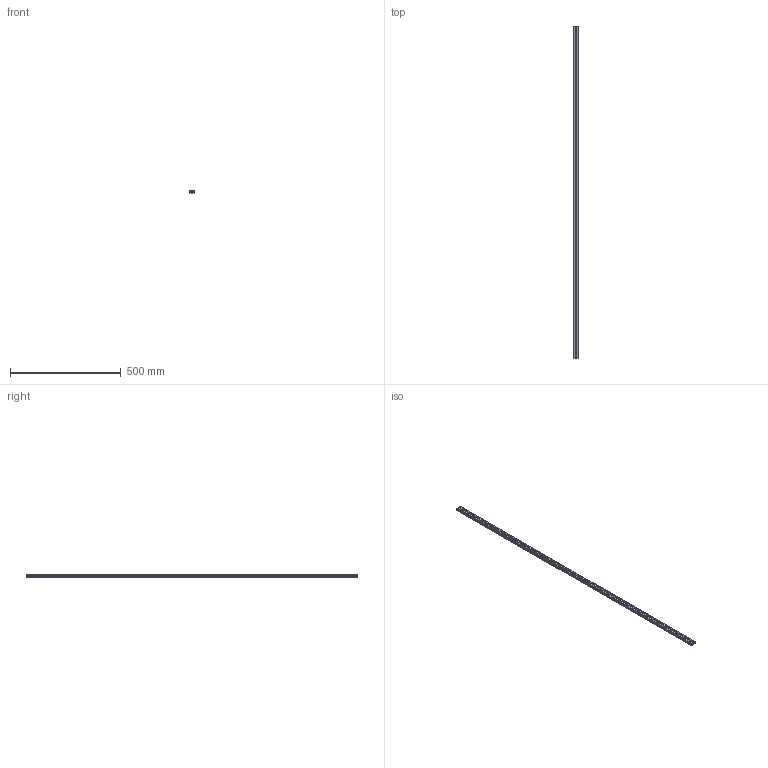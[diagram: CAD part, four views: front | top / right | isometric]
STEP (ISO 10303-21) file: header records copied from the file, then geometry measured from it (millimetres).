
FILE_DESCRIPTION (( 'STEP AP214' ), '1' );
FILE_NAME ('PEP2510-1500.STEP', '2019-10-30T00:39:41', ( '微软用户' ), ( '微软中国' ), 'SwSTEP 2.0', 'SolidWorks 2016', '' );
FILE_SCHEMA (( 'AUTOMOTIVE_DESIGN' ));
Length unit declared in the file: millimetre
Products named in the file (1): PEP2510-1500
Bounding box: 25 x 1500 x 10 mm (x, y, z)
Volume: 167452.4 mm3; surface area: 225653.3 mm2
Topology: 1 solids, 1 shells, 70 faces, 204 edges, 136 vertices
Faces by surface type: plane 36, cylinder 34
Entity records: 2378 total; most frequent: DIRECTION 414, CARTESIAN_POINT 411, ORIENTED_EDGE 408, EDGE_CURVE 204, AXIS2_PLACEMENT_3D 139, VECTOR 136, VERTEX_POINT 136, LINE 136
